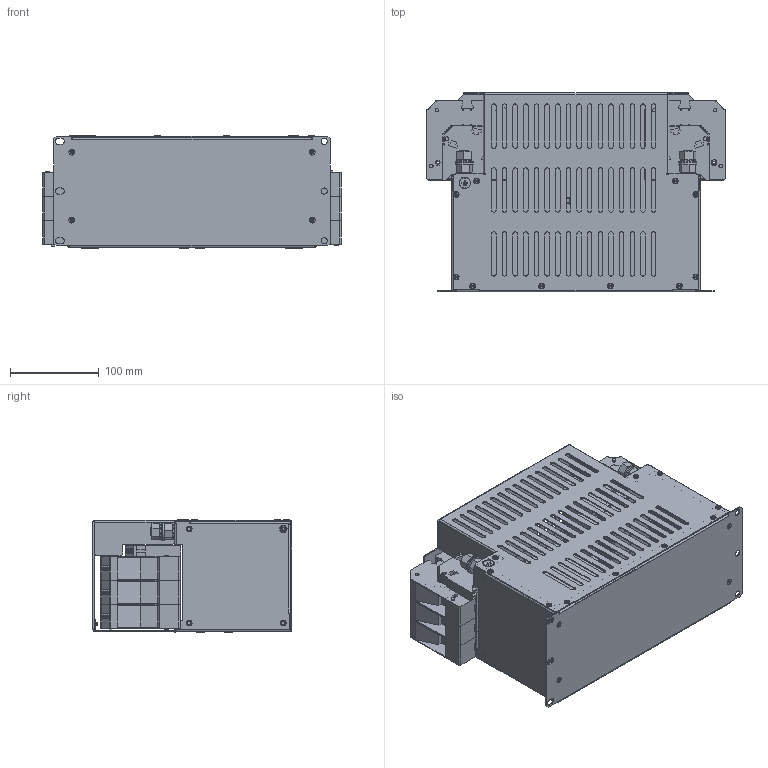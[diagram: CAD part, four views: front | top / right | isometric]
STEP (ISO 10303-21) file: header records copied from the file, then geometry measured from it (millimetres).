
FILE_DESCRIPTION (( 'STEP AP214' ), '1' );
FILE_NAME ('KMF3180.STEP', '2016-04-26T09:07:47', ( '' ), ( '' ), 'SwSTEP 2.0', 'SolidWorks 2014', '' );
FILE_SCHEMA (( 'AUTOMOTIVE_DESIGN' ));
Length unit declared in the file: millimetre
Products named in the file (19): WSH172; NUT103_NUT103; BOX675_BOX+LID TER728; KMF3180; TER724 (1); TER728 (1); FIX119; FIX139; Earth punch; BOX675lid_FLAT TABS; PEM HFH-M6-15 ZI_PEM HFH-M6-15 ZI; PEM SSS-4mm-14 ZI_PEM SSS-4mm-14 ZI; PEM SO-M4-14 ZI--N_PEM SO-M4-14 ZI--N; PEM HFH-M10-30 ZI--C_PEM HFH-M10-30 ZI--C; BOX675A; SCR230; M4 EXT WSH_M4; M4 X 12 PAN_91-0001-47017; WSH142
Assembly tree (60 placements, depth 3):
  KMF3180
    NUT103_NUT103  x4
    WSH172  x4
    WSH142  x4
    SCR230  x2
      M4 X 12 PAN_91-0001-47017
      M4 EXT WSH_M4
    BOX675_BOX+LID TER728
      BOX675A
      PEM HFH-M10-30 ZI--C_PEM HFH-M10-30 ZI--C  x2
      PEM SO-M4-14 ZI--N_PEM SO-M4-14 ZI--N  x2
      PEM SSS-4mm-14 ZI_PEM SSS-4mm-14 ZI  x6
      PEM HFH-M6-15 ZI_PEM HFH-M6-15 ZI  x2
      BOX675lid_FLAT TABS
      Earth punch
      FIX139  x12
      FIX119  x4
      TER728 (1)  x6
      TER724 (1)  x2
    FIX119  x4
Bounding box: 336 x 225.2 x 127.59 mm (x, y, z)
Volume: 1420992.1 mm3; surface area: 691337.1 mm2
Topology: 99 solids, 99 shells, 4683 faces, 12201 edges, 7926 vertices
Faces by surface type: plane 2877, cylinder 1182, cone 516, torus 104, sphere 4
Entity records: 58717 total; most frequent: CARTESIAN_POINT 10326, DIRECTION 9919, ORIENTED_EDGE 9702, EDGE_CURVE 4851, VECTOR 3383, LINE 3383, AXIS2_PLACEMENT_3D 3268, VERTEX_POINT 3131
